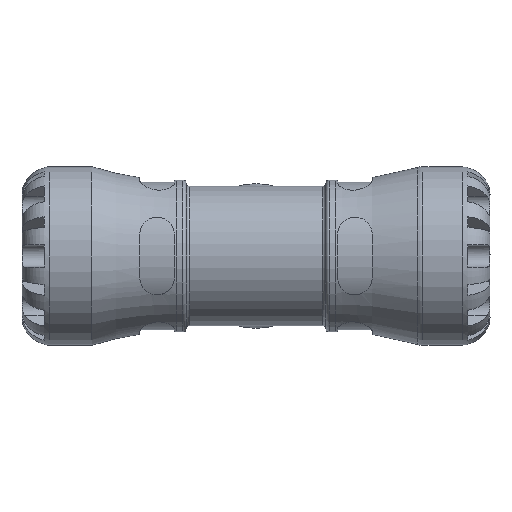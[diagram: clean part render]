
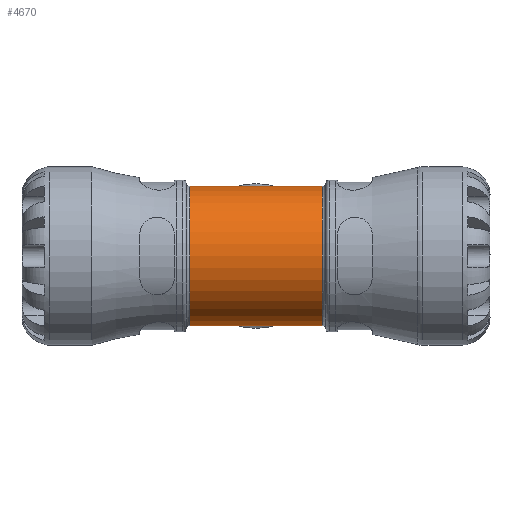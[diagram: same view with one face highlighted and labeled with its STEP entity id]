
A CAD part, front view. The second image highlights one B-rep face of the part: STEP entity #4670.
In plain terms, the highlighted cylindrical face has radius 22.62 mm (diameter 45.24 mm), a full revolution.
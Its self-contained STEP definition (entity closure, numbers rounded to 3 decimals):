
#684=FACE_BOUND('',#1119,.T.);
#685=FACE_BOUND('',#1120,.T.);
#732=CYLINDRICAL_SURFACE('',#4960,22.62);
#830=FACE_OUTER_BOUND('',#1118,.T.);
#1118=EDGE_LOOP('',(#3021));
#1119=EDGE_LOOP('',(#3022));
#1120=EDGE_LOOP('',(#3023));
#1451=B_SPLINE_CURVE_WITH_KNOTS('',3,(#6952,#6953,#6954,#6955,#6956,#6957,
#6958,#6959,#6960,#6961,#6962,#6963,#6964,#6965,#6966,#6967,#6968,#6969,
#6970,#6971,#6972,#6973,#6974,#6975,#6976),.UNSPECIFIED.,.T.,.F.,(4,1,1,
1,1,1,1,1,1,1,1,1,1,1,1,1,1,1,1,1,1,1,4),(-11.878,-11.454,
-11.03,-10.181,-9.333,-8.909,
-8.484,-7.919,-7.353,-6.787,
-6.222,-5.939,-5.656,-5.091,
-4.525,-3.959,-3.394,-2.828,
-2.262,-1.697,-0.848,-0.424,
0.),.UNSPECIFIED.);
#1647=CIRCLE('',#4961,22.62);
#1648=CIRCLE('',#4962,22.62);
#1892=VERTEX_POINT('',#6924);
#1895=VERTEX_POINT('',#6981);
#1896=VERTEX_POINT('',#6983);
#2335=EDGE_CURVE('',#1892,#1892,#1451,.T.);
#2337=EDGE_CURVE('',#1895,#1895,#1647,.T.);
#2338=EDGE_CURVE('',#1896,#1896,#1648,.T.);
#3021=ORIENTED_EDGE('',*,*,#2337,.F.);
#3022=ORIENTED_EDGE('',*,*,#2338,.F.);
#3023=ORIENTED_EDGE('',*,*,#2335,.F.);
#4670=ADVANCED_FACE('',(#830,#684,#685),#732,.T.);
#4960=AXIS2_PLACEMENT_3D('',#6980,#5498,#5499);
#4961=AXIS2_PLACEMENT_3D('',#6982,#5500,#5501);
#4962=AXIS2_PLACEMENT_3D('',#6984,#5502,#5503);
#5498=DIRECTION('center_axis',(1.,0.,0.));
#5499=DIRECTION('ref_axis',(0.,1.,0.));
#5500=DIRECTION('center_axis',(-1.,0.,0.));
#5501=DIRECTION('ref_axis',(0.,1.,0.));
#5502=DIRECTION('center_axis',(1.,0.,0.));
#5503=DIRECTION('ref_axis',(0.,1.,0.));
#6924=CARTESIAN_POINT('',(0.,13.105,18.437));
#6952=CARTESIAN_POINT('Ctrl Pts',(0.,13.104,
18.437));
#6953=CARTESIAN_POINT('Ctrl Pts',(1.501,13.104,18.437));
#6954=CARTESIAN_POINT('Ctrl Pts',(4.502,13.631,18.077));
#6955=CARTESIAN_POINT('Ctrl Pts',(9.716,15.959,16.184));
#6956=CARTESIAN_POINT('Ctrl Pts',(14.989,19.552,12.152));
#6957=CARTESIAN_POINT('Ctrl Pts',(18.357,22.181,5.878));
#6958=CARTESIAN_POINT('Ctrl Pts',(19.09,22.767,-0.003));
#6959=CARTESIAN_POINT('Ctrl Pts',(18.479,22.28,-4.887));
#6960=CARTESIAN_POINT('Ctrl Pts',(16.407,20.657,-9.695));
#6961=CARTESIAN_POINT('Ctrl Pts',(12.902,18.102,-13.803));
#6962=CARTESIAN_POINT('Ctrl Pts',(8.494,15.339,-16.751));
#6963=CARTESIAN_POINT('Ctrl Pts',(4.013,13.452,-18.196));
#6964=CARTESIAN_POINT('Ctrl Pts',(0.001,12.989,
-18.517));
#6965=CARTESIAN_POINT('Ctrl Pts',(-4.014,13.453,-18.195));
#6966=CARTESIAN_POINT('Ctrl Pts',(-8.493,15.339,-16.751));
#6967=CARTESIAN_POINT('Ctrl Pts',(-12.902,18.102,-13.805));
#6968=CARTESIAN_POINT('Ctrl Pts',(-16.406,20.656,-9.693));
#6969=CARTESIAN_POINT('Ctrl Pts',(-18.671,22.43,-4.455));
#6970=CARTESIAN_POINT('Ctrl Pts',(-19.172,22.834,1.508));
#6971=CARTESIAN_POINT('Ctrl Pts',(-17.725,21.677,7.206));
#6972=CARTESIAN_POINT('Ctrl Pts',(-14.287,19.072,12.674));
#6973=CARTESIAN_POINT('Ctrl Pts',(-9.716,15.96,16.19));
#6974=CARTESIAN_POINT('Ctrl Pts',(-4.502,13.631,18.076));
#6975=CARTESIAN_POINT('Ctrl Pts',(-1.501,13.104,18.436));
#6976=CARTESIAN_POINT('Ctrl Pts',(0.,13.104,
18.437));
#6980=CARTESIAN_POINT('Origin',(11.31,0.,0.));
#6981=CARTESIAN_POINT('',(-21.478,-22.62,0.));
#6982=CARTESIAN_POINT('Origin',(-21.478,0.,0.));
#6983=CARTESIAN_POINT('',(21.478,-22.62,0.));
#6984=CARTESIAN_POINT('Origin',(21.478,0.,0.));
